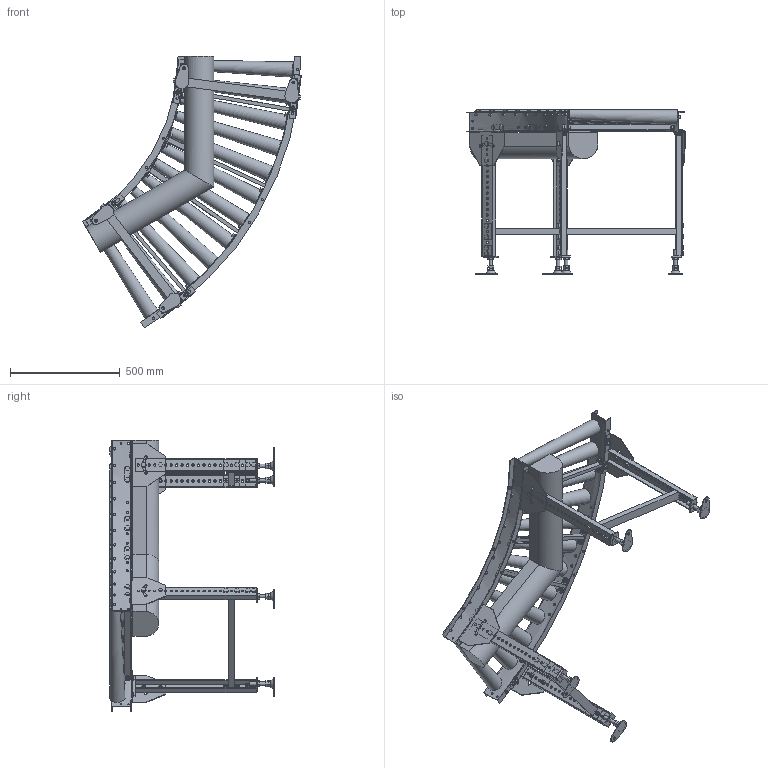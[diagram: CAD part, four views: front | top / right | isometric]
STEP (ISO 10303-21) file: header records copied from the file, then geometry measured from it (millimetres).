
FILE_DESCRIPTION( (''), '2;1');
FILE_NAME ('WEB-MCD-50-500-100-60°-C9.stp','2025-06-26T16:57:41',(''),(''),'spGate 20.6.2 (****-****-****-****)','','');
FILE_SCHEMA (('AUTOMOTIVE_DESIGN'));
Length unit declared in the file: millimetre
Products named in the file (32): WEB-MCD-50-500-100-60_-C9; TEMP_X_T-prt0; TEMP_X_T-prt1; TEMP_X_T-prt2; TEMP_X_T-prt3; TEMP_X_T-prt4; TEMP_X_T-prt5; TEMP_X_T-prt6; TEMP_X_T-prt7; TEMP_X_T-prt8; TEMP_X_T-prt9; TEMP_X_T-prt10; TEMP_X_T-prt11; TEMP_X_T-prt12; TEMP_X_T-prt13; TEMP_X_T-prt14; TEMP_X_T-prt15; TEMP_X_T-prt16; TEMP_X_T-prt17; TEMP_X_T-prt18; TEMP_X_T-prt19; TEMP_X_T-prt20; TEMP_X_T-prt21; TEMP_X_T-prt22; TEMP_X_T-prt23; TEMP_X_T-prt24; TEMP_X_T-prt25; TEMP_X_T-prt26; TEMP_X_T-prt27; TEMP_X_T-prt28; TEMP_X_T-prt29; TEMP_X_T-prt30
Assembly tree (31 placements, depth 2):
  WEB-MCD-50-500-100-60_-C9
    TEMP_X_T-prt0
    TEMP_X_T-prt1
    TEMP_X_T-prt2
    TEMP_X_T-prt3
    TEMP_X_T-prt4
    TEMP_X_T-prt5
    TEMP_X_T-prt6
    TEMP_X_T-prt7
    TEMP_X_T-prt8
    TEMP_X_T-prt9
    TEMP_X_T-prt10
    TEMP_X_T-prt11
    TEMP_X_T-prt12
    TEMP_X_T-prt13
    TEMP_X_T-prt14
    TEMP_X_T-prt15
    TEMP_X_T-prt16
    TEMP_X_T-prt17
    TEMP_X_T-prt18
    TEMP_X_T-prt19
    TEMP_X_T-prt20
    TEMP_X_T-prt21
    TEMP_X_T-prt22
    TEMP_X_T-prt23
    TEMP_X_T-prt24
    TEMP_X_T-prt25
    TEMP_X_T-prt26
    TEMP_X_T-prt27
    TEMP_X_T-prt28
    TEMP_X_T-prt29
    TEMP_X_T-prt30
Bounding box: 997.18 x 750.06 x 1238.42 mm (x, y, z)
Volume: 35971178 mm3; surface area: 3562283.6 mm2
Topology: 31 solids, 51 shells, 2202 faces, 5366 edges, 3462 vertices
Faces by surface type: plane 1823, cylinder 363, bspline 16
Full cylindrical faces by diameter (mm): 8.5 x8, 10 x60, 10.5 x92, 11 x14, 12 x24, 13 x4, 14 x7, 16 x4, 18.4 x40, 18.5 x8, 21 x28
Entity records: 113683 total; most frequent: CARTESIAN_POINT 16043, DIRECTION 11034, ORIENTED_EDGE 10732, COLOUR_RGB 7599, PRESENTATION_STYLE_ASSIGNMENT 7599, STYLED_ITEM 7599, EDGE_CURVE 5366, DRAUGHTING_PRE_DEFINED_CURVE_FONT 5366
